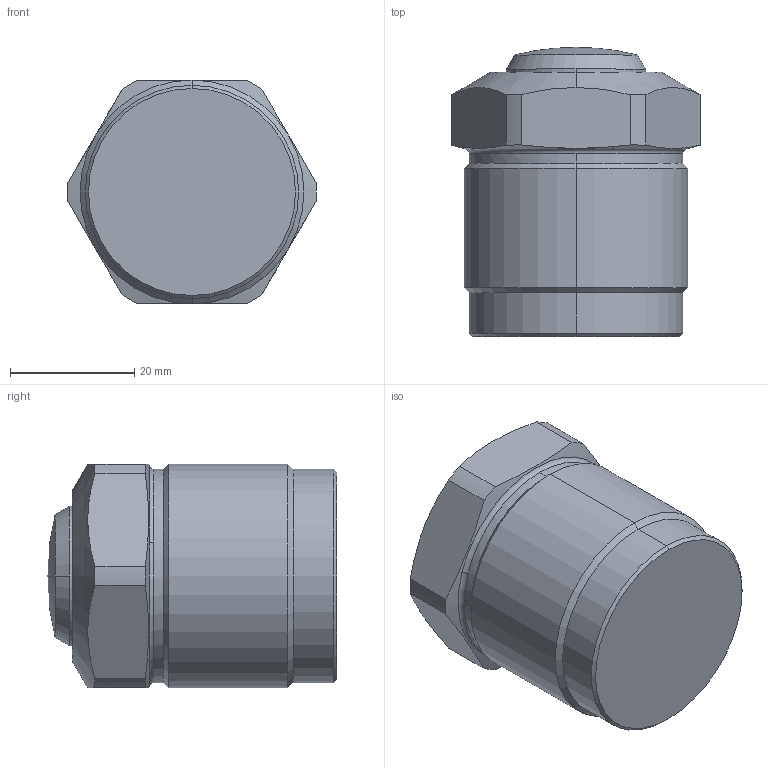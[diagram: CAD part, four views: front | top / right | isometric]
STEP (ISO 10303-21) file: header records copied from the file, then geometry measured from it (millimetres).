
FILE_DESCRIPTION((' '),'2;1');
FILE_NAME( 'CMC10-10R.X_T.stp', '2024-08-27T13:58:39', (' '), ('--- Datakit www.datakit.com---'), ' Datakit CrossCadWare V2024.1 Dec 21 2023', 'Mastercam 2025', ' ');
FILE_SCHEMA(('AUTOMOTIVE_DESIGN { 1 0 10303 214 1 1 1 1 }'));
Length unit declared in the file: millimetre
Products named in the file (1): CMC10-10R
Bounding box: 39.99 x 46.5 x 36 mm (x, y, z)
Volume: 43823.8 mm3; surface area: 9112.6 mm2
Topology: 2 solids, 2 shells, 42 faces, 102 edges, 63 vertices
Faces by surface type: cylinder 16, cone 12, plane 10, torus 2, sphere 2
Entity records: 1348 total; most frequent: CARTESIAN_POINT 338, DIRECTION 220, ORIENTED_EDGE 200, EDGE_CURVE 100, AXIS2_PLACEMENT_3D 93, VERTEX_POINT 63, CIRCLE 50, EDGE_LOOP 43
